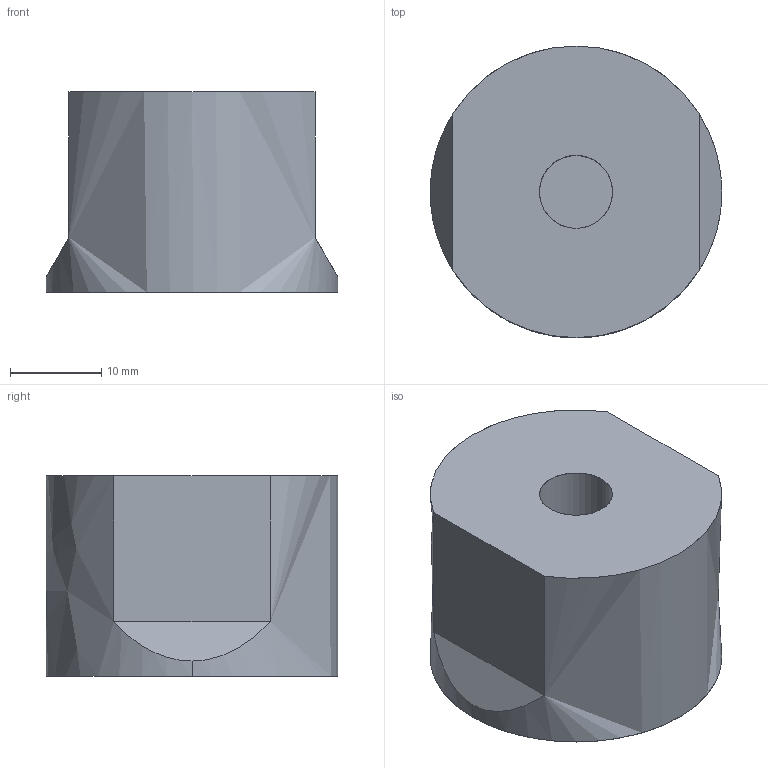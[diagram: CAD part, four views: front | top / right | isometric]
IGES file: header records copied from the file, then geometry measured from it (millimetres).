
Global section: file name: E:\UnigraphicsGraphicData\MISUMI_PRESS-PARTS\IGES\3d_sbvm32-22-r_00162_r00.igs; native system: NX V5.0; preprocessor: UGS NX IGES V5.0; author: MISUMI; date: 20110105.162513; units: millimetre
Bounding box: 32 x 32 x 22 mm (x, y, z)
Surface area: 4147.6 mm2 (no closed solid volume)
Topology: 0 solids, 0 shells, 11 faces, 80 edges, 80 vertices
Faces by surface type: bspline 11
